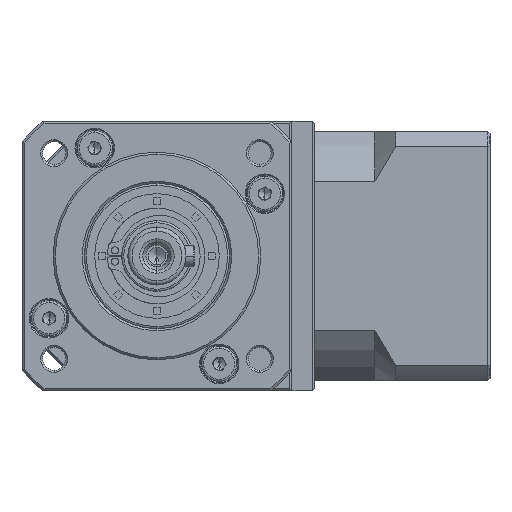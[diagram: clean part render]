
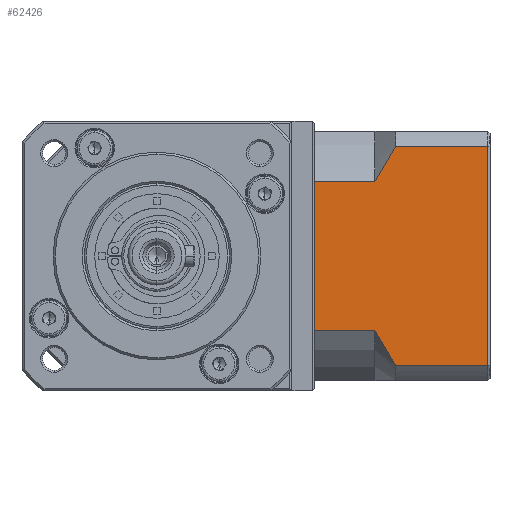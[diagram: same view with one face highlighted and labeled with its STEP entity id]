
A CAD part, left-side view. The second image highlights one B-rep face of the part: STEP entity #62426.
In plain terms, the highlighted planar face has unit normal (-1, 0, 0).
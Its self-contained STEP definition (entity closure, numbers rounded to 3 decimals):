
#2331 = PLANE ( 'NONE',  #136365 ) ;
#2894 = CARTESIAN_POINT ( 'NONE',  ( -9.184, -78.48, -157.634 ) ) ;
#5941 = VECTOR ( 'NONE', #94327, 1000. ) ;
#6878 = CARTESIAN_POINT ( 'NONE',  ( -9.184, -54.004, -151.349 ) ) ;
#7396 = EDGE_LOOP ( 'NONE', ( #128737, #77720, #78742, #134671, #18578, #83111, #23596, #149010 ) ) ;
#14961 = VECTOR ( 'NONE', #152520, 1000. ) ;
#15735 = DIRECTION ( 'NONE',  ( 0., 1., 0. ) ) ;
#16191 = CARTESIAN_POINT ( 'NONE',  ( -9.184, -36.28, -109.606 ) ) ;
#18216 = VECTOR ( 'NONE', #137205, 1000. ) ;
#18578 = ORIENTED_EDGE ( 'NONE', *, *, #117762, .F. ) ;
#19255 = CARTESIAN_POINT ( 'NONE',  ( -9.184, -55.78, -154.091 ) ) ;
#19304 = CARTESIAN_POINT ( 'NONE',  ( -9.184, -50.78, -109.606 ) ) ;
#19745 = CARTESIAN_POINT ( 'NONE',  ( -9.184, -55.78, -154.091 ) ) ;
#20798 = EDGE_CURVE ( 'NONE', #134281, #146231, #101267, .T. ) ;
#21455 = CARTESIAN_POINT ( 'NONE',  ( -9.184, -77.98, -157.634 ) ) ;
#22031 = EDGE_CURVE ( 'NONE', #77782, #122212, #155004, .T. ) ;
#23279 = CARTESIAN_POINT ( 'NONE',  ( -9.184, -52.331, -106.722 ) ) ;
#23596 = ORIENTED_EDGE ( 'NONE', *, *, #115587, .F. ) ;
#26232 = EDGE_CURVE ( 'NONE', #29635, #37865, #159380, .T. ) ;
#29635 = VERTEX_POINT ( 'NONE', #16191 ) ;
#30383 = CARTESIAN_POINT ( 'NONE',  ( -9.184, -36.28, -157.634 ) ) ;
#36120 = CARTESIAN_POINT ( 'NONE',  ( -9.184, -50.78, -109.606 ) ) ;
#37865 = VERTEX_POINT ( 'NONE', #152630 ) ;
#38427 = CARTESIAN_POINT ( 'NONE',  ( -9.184, -50.78, -145.661 ) ) ;
#41740 = VERTEX_POINT ( 'NONE', #42729 ) ;
#42729 = CARTESIAN_POINT ( 'NONE',  ( -9.184, -55.78, -101.176 ) ) ;
#44062 = CARTESIAN_POINT ( 'NONE',  ( -9.184, -50.78, -145.661 ) ) ;
#54287 = EDGE_CURVE ( 'NONE', #41740, #124292, #69111, .T. ) ;
#57988 = CARTESIAN_POINT ( 'NONE',  ( -9.184, -52.33, -148.543 ) ) ;
#59399 = CARTESIAN_POINT ( 'NONE',  ( -9.184, -50.78, -154.091 ) ) ;
#61520 = CARTESIAN_POINT ( 'NONE',  ( -9.184, -54.88, -102.536 ) ) ;
#62426 = ADVANCED_FACE ( 'NONE', ( #165084 ), #2331, .F. ) ;
#62543 = CARTESIAN_POINT ( 'NONE',  ( -9.184, -77.98, -101.176 ) ) ;
#69111 = B_SPLINE_CURVE_WITH_KNOTS ( 'NONE', 3,
 ( #87381, #61520, #100300, #23279, #113156, #36120 ),
 .UNSPECIFIED., .F., .F.,
 ( 4, 2, 4 ),
 ( 0.052, 0.057, 0.062 ),
 .UNSPECIFIED. ) ;
#71108 = VECTOR ( 'NONE', #78906, 1000. ) ;
#72338 = DIRECTION ( 'NONE',  ( 0., 1., 0. ) ) ;
#74351 = LINE ( 'NONE', #158377, #5941 ) ;
#77720 = ORIENTED_EDGE ( 'NONE', *, *, #22031, .T. ) ;
#77782 = VERTEX_POINT ( 'NONE', #160634 ) ;
#78742 = ORIENTED_EDGE ( 'NONE', *, *, #157684, .F. ) ;
#78906 = DIRECTION ( 'NONE',  ( 0., 1., 0. ) ) ;
#83111 = ORIENTED_EDGE ( 'NONE', *, *, #26232, .T. ) ;
#83837 = CARTESIAN_POINT ( 'NONE',  ( -9.184, -50.78, -145.661 ) ) ;
#84449 = VECTOR ( 'NONE', #72338, 1000. ) ;
#87381 = CARTESIAN_POINT ( 'NONE',  ( -9.184, -55.78, -101.176 ) ) ;
#92773 = DIRECTION ( 'NONE',  ( 1., 0., 0. ) ) ;
#94327 = DIRECTION ( 'NONE',  ( 0., -1., 0. ) ) ;
#96741 = CARTESIAN_POINT ( 'NONE',  ( -9.184, -54.878, -152.728 ) ) ;
#100300 = CARTESIAN_POINT ( 'NONE',  ( -9.184, -54.007, -103.915 ) ) ;
#101267 = B_SPLINE_CURVE_WITH_KNOTS ( 'NONE', 3,
 ( #83837, #160767, #57988, #6878, #96741, #19745 ),
 .UNSPECIFIED., .F., .F.,
 ( 4, 2, 4 ),
 ( 0.1, 0.104, 0.109 ),
 .UNSPECIFIED. ) ;
#113156 = CARTESIAN_POINT ( 'NONE',  ( -9.184, -51.528, -108.154 ) ) ;
#115587 = EDGE_CURVE ( 'NONE', #134281, #37865, #139511, .T. ) ;
#117545 = LINE ( 'NONE', #139602, #14961 ) ;
#117762 = EDGE_CURVE ( 'NONE', #29635, #124292, #74351, .T. ) ;
#120315 = DIRECTION ( 'NONE',  ( 0., 0., -1. ) ) ;
#122212 = VERTEX_POINT ( 'NONE', #62543 ) ;
#122649 = LINE ( 'NONE', #59399, #84449 ) ;
#124292 = VERTEX_POINT ( 'NONE', #19304 ) ;
#128737 = ORIENTED_EDGE ( 'NONE', *, *, #133956, .F. ) ;
#133956 = EDGE_CURVE ( 'NONE', #77782, #146231, #122649, .T. ) ;
#134281 = VERTEX_POINT ( 'NONE', #44062 ) ;
#134671 = ORIENTED_EDGE ( 'NONE', *, *, #54287, .T. ) ;
#136365 = AXIS2_PLACEMENT_3D ( 'NONE', #2894, #92773, #15735 ) ;
#137205 = DIRECTION ( 'NONE',  ( 0., 0., 1. ) ) ;
#139511 = LINE ( 'NONE', #38427, #71108 ) ;
#139602 = CARTESIAN_POINT ( 'NONE',  ( -9.184, -50.78, -101.176 ) ) ;
#146231 = VERTEX_POINT ( 'NONE', #19255 ) ;
#149010 = ORIENTED_EDGE ( 'NONE', *, *, #20798, .T. ) ;
#152520 = DIRECTION ( 'NONE',  ( 0., -1., 0. ) ) ;
#152630 = CARTESIAN_POINT ( 'NONE',  ( -9.184, -36.28, -145.661 ) ) ;
#155004 = LINE ( 'NONE', #21455, #18216 ) ;
#157684 = EDGE_CURVE ( 'NONE', #41740, #122212, #117545, .T. ) ;
#158377 = CARTESIAN_POINT ( 'NONE',  ( -9.184, -50.78, -109.606 ) ) ;
#159380 = LINE ( 'NONE', #30383, #163374 ) ;
#160634 = CARTESIAN_POINT ( 'NONE',  ( -9.184, -77.98, -154.091 ) ) ;
#160767 = CARTESIAN_POINT ( 'NONE',  ( -9.184, -51.53, -147.118 ) ) ;
#163374 = VECTOR ( 'NONE', #120315, 1000. ) ;
#165084 = FACE_OUTER_BOUND ( 'NONE', #7396, .T. ) ;
